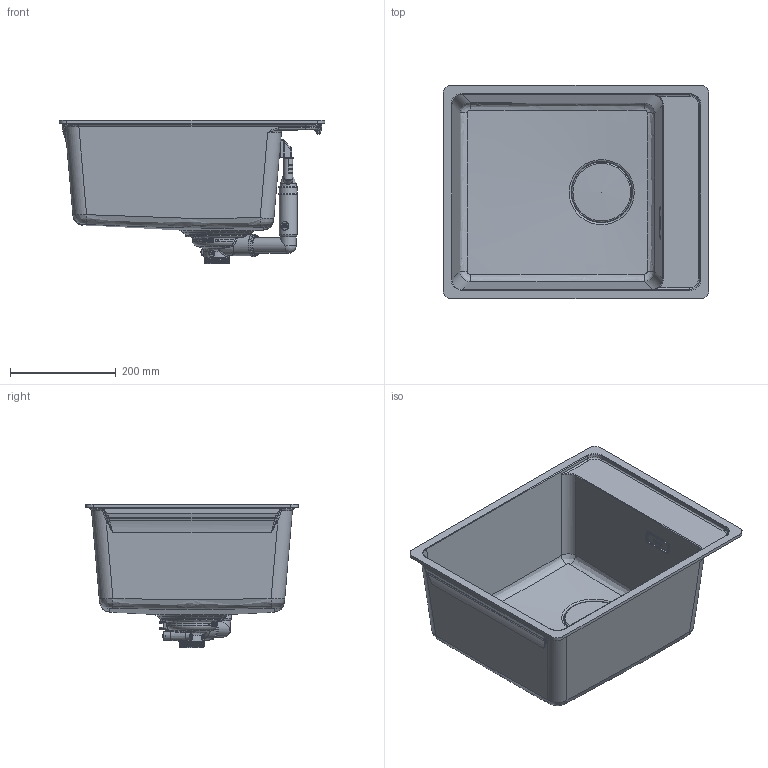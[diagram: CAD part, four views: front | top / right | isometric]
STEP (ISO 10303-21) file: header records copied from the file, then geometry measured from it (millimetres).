
FILE_DESCRIPTION(/* description */ ('UBG 611-62'),/* implementation_level */ '2;1');
FILE_NAME(/* name */ 'C:\Users\PS950\OneDrive - Franke Group\Maris Bowls MRG\Flushmount\MRG 210-37 TL\3D Data\MRG 210-37 TL.stp',/* time_stamp */ '2021-09-29T14:33:29+02:00',/* author */ ('PS950'),/* organization */ (''),/* preprocessor_version */ 'ST-DEVELOPER v18.1',/* originating_system */ 'Autodesk Inventor 2021',/* authorisation */ '');
FILE_SCHEMA (('AUTOMOTIVE_DESIGN { 1 0 10303 214 3 1 1 }'));
Products named in the file (22): 0056-218847; Standard; NEW MARIS_V01; 0056-218666; 0056-202897; 0056-214469; 0056-203246; 0056-213999; 0056-127368; 0056-215850; 0056-215855; 0056-185732; 0056-214454; 0056-214010; 0056-135514; 0056-137629; 0056-142823; 0056-165491; 0056-161093; 0056-216002; 0056-216000; 0056-207145
Assembly tree (24 placements, depth 4):
  0056-218847
    Standard
      NEW MARIS_V01
    0056-218666
      0056-202897
      0056-214469
      0056-203246
        0056-213999
        0056-127368
        0056-215850
        0056-215855
        0056-185732
        0056-214454
        0056-214010
    0056-135514
    0056-137629
    0056-142823
    0056-165491
    0056-161093
    0056-216002
      0056-216000
      0056-207145  x4
Bounding box: 503 x 403 x 271.19 mm (x, y, z)
Volume: 3423945.6 mm3; surface area: 1123147.5 mm2
Topology: 20 solids, 20 shells, 5111 faces, 13581 edges, 8696 vertices
Faces by surface type: plane 2667, bspline 1144, cylinder 669, torus 347, cone 221, sphere 63
Full cylindrical faces by diameter (mm): 3.242 x1, 4 x1, 4.5 x1, 4.7 x1, 4.85 x1, 5.2 x1, 5.25 x1, 5.85 x2, 6 x4, 6.01 x1, 6.2 x1, 8 x2, 8.25 x1, 11.003 x8, 12 x1, 12.5 x9, 12.6 x1, 13.743 x1, 14.3 x1, 16.941 x1, 22 x1, 26 x1, 27 x1, 28 x2, 30 x7, 33 x2, 33.75 x1, 34 x2, 36.5 x1, 39 x2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
Entity records: 183476 total; most frequent: CARTESIAN_POINT 67478, ORIENTED_EDGE 25960, DIRECTION 20595, EDGE_CURVE 12980, VERTEX_POINT 8384, LINE 7601, VECTOR 7601, AXIS2_PLACEMENT_3D 6497
